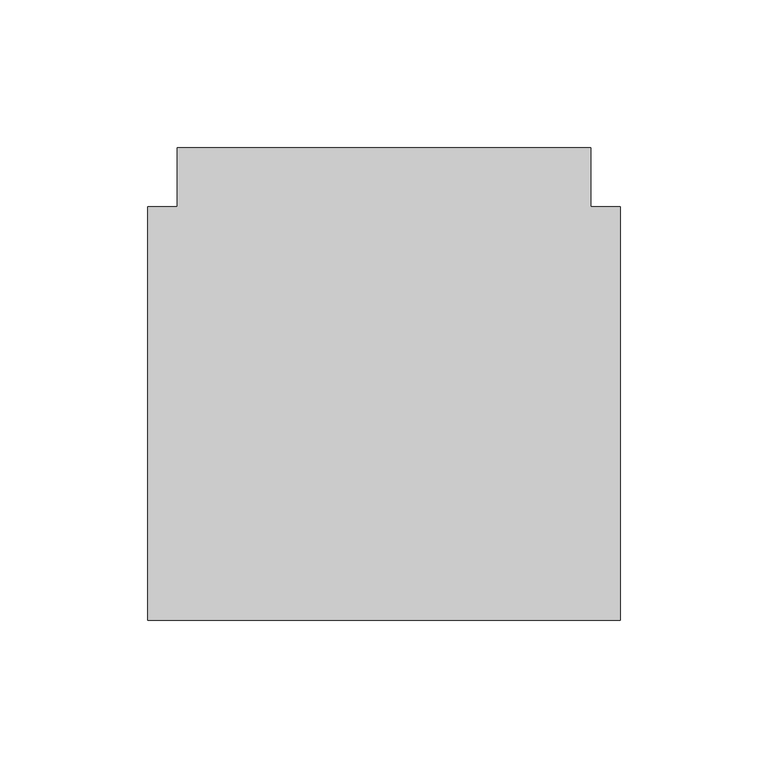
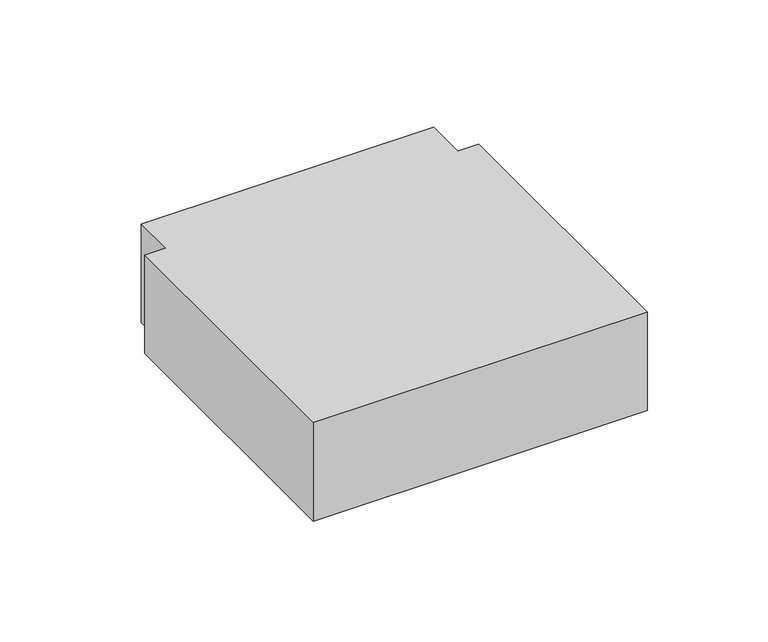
"""IFC4 building model written with IfcOpenShell, lengths in millimetres: cable carrier fitting geometry, КНС_Тройник_ILF_DKC : Белый."""

import ifcopenshell
import ifcopenshell.guid

model = None  # the IFC model being written
_history = None  # IfcOwnerHistory: only IFC2X3 demands one
_inside = {}  # id of a spatial element -> (the spatial element, [elements in it])
_under = {}  # id of a project, library or spatial element -> (it, [spatial elements below it])
_declared = {}  # id of a project -> (the project, [libraries it declares])
_typed = {}  # id of a type object -> (the type object, [elements of that type])
_made_of = {}  # id of a material, layer set ... -> (it, [elements and type objects made of it])


def new_model(schema):
    """Start an empty IFC model of exactly this schema.

    Asked for "IFC4X3", IfcOpenShell would pick the latest addendum, in which some entities
    have other attributes; the version numbers below select the first issue.
    IFC2X3 requires an IfcOwnerHistory on every rooted entity: one is made here for all.
    """
    global model, _history
    if schema == "IFC4X3":
        model = ifcopenshell.file(schema_version=(4, 3, 0, 0))
    else:
        model = ifcopenshell.file(schema=schema)
    _inside.clear()
    _under.clear()
    _declared.clear()
    _typed.clear()
    _made_of.clear()
    _history = None
    if model.schema == "IFC2X3":
        org = make("IfcOrganization", Name="unknown")
        user = make(
            "IfcPersonAndOrganization",
            ThePerson=make("IfcPerson", FamilyName="unknown"),
            TheOrganization=org,
        )
        app = make(
            "IfcApplication",
            ApplicationDeveloper=org,
            Version="unknown",
            ApplicationFullName="unknown",
            ApplicationIdentifier="unknown",
        )
        _history = make(
            "IfcOwnerHistory",
            OwningUser=user,
            OwningApplication=app,
            ChangeAction="ADDED",
            CreationDate=0,
        )
    return model


def make(cls, **values):
    """One entity of the class cls with the attributes given. An attribute that is None is left unset."""
    return model.create_entity(
        cls, **{name: value for name, value in values.items() if value is not None}
    )


def rooted(cls, **values):
    """An entity with a GlobalId (a new one), such as an element, a storey or a relation."""
    return make(cls, GlobalId=ifcopenshell.guid.new(), OwnerHistory=_history, **values)


def si_unit(unit_type, name, prefix=None):
    """IfcSIUnit, for example si_unit("LENGTHUNIT", "METRE", prefix="MILLI")."""
    return make("IfcSIUnit", UnitType=unit_type, Prefix=prefix, Name=name)


def assignment(units):
    """IfcUnitAssignment: the units of a project."""
    return None if units is None else make("IfcUnitAssignment", Units=units)


def point(xyz):
    """IfcCartesianPoint."""
    return None if xyz is None else make("IfcCartesianPoint", Coordinates=xyz)


def direction(xyz):
    """IfcDirection."""
    return None if xyz is None else make("IfcDirection", DirectionRatios=xyz)


def frame(location, z_axis=None, x_axis=None):
    """IfcAxis2Placement3D, a coordinate frame: its origin and axes. An axis left out is left unset."""
    return make(
        "IfcAxis2Placement3D",
        Location=point(location),
        Axis=direction(z_axis),
        RefDirection=direction(x_axis),
    )


def origin():
    """The frame at (0, 0, 0) with its axes left unset."""
    return frame((0.0, 0.0, 0.0))


def place(relative_to, where):
    """IfcLocalPlacement: puts the frame where relative to a parent placement (None: the world)."""
    return make(
        "IfcLocalPlacement", PlacementRelTo=relative_to, RelativePlacement=where
    )


def context(
    kind, dimensions, precision=None, world=None, true_north=None, identifier=None
):
    """IfcGeometricRepresentationContext, for example the 3D "Model" context."""
    return make(
        "IfcGeometricRepresentationContext",
        ContextIdentifier=identifier,
        ContextType=kind,
        CoordinateSpaceDimension=dimensions,
        Precision=precision,
        WorldCoordinateSystem=world,
        TrueNorth=true_north,
    )


def project(units=None, contexts=None):
    """IfcProject with its units and contexts."""
    return rooted(
        "IfcProject",
        Name="project",
        RepresentationContexts=contexts,
        UnitsInContext=assignment(units),
    )


def spatial(cls, under=None, at=None, **own):
    """A site, building, storey or space (cls), placed at a placement, below another one or the project."""
    s = rooted(cls, ObjectPlacement=at, **own)
    if under is not None:
        _under.setdefault(under.id(), (under, []))[1].append(s)
    return s


def polyline(points):
    """IfcPolyline through the points."""
    return make("IfcPolyline", Points=[point(p) for p in points])


def outline(outer, holes=None, kind="AREA"):
    """IfcArbitraryClosedProfileDef: a profile drawn as a closed curve; with holes, ...WithVoids."""
    if holes is None:
        return make("IfcArbitraryClosedProfileDef", ProfileType=kind, OuterCurve=outer)
    return make(
        "IfcArbitraryProfileDefWithVoids",
        ProfileType=kind,
        OuterCurve=outer,
        InnerCurves=holes,
    )


def extrude(swept, where, along, depth):
    """IfcExtrudedAreaSolid: the profile swept, set in the frame where, extruded along a direction by depth."""
    return make(
        "IfcExtrudedAreaSolid",
        SweptArea=swept,
        Position=where,
        ExtrudedDirection=direction(along),
        Depth=depth,
    )


def faces_of(points, faces, orient=None, outer=None):
    """IfcFace entities. A face is a list of loops; a loop is a list of indices into points, from 0.

    orient and outer hold one flag for each loop. By default every Orientation is true, the
    first loop of a face is its IfcFaceOuterBound and the others are IfcFaceBound.
    """
    made = []
    for i, loops in enumerate(faces):
        bounds = []
        for j, loop in enumerate(loops):
            is_outer = j == 0 if outer is None else outer[i][j]
            bounds.append(
                make(
                    "IfcFaceOuterBound" if is_outer else "IfcFaceBound",
                    Bound=make("IfcPolyLoop", Polygon=[points[k] for k in loop]),
                    Orientation=True if orient is None else orient[i][j],
                )
            )
        made.append(make("IfcFace", Bounds=bounds))
    return made


def faceted_brep(points, faces, orient=None, outer=None, voids=None):
    """IfcFacetedBrep: a solid bounded by flat faces; with voids (closed shells), ...WithVoids."""
    shared = [point(p) for p in points]
    hull = make("IfcClosedShell", CfsFaces=faces_of(shared, faces, orient, outer))
    if voids is None:
        return make("IfcFacetedBrep", Outer=hull)
    return make(
        "IfcFacetedBrepWithVoids",
        Outer=hull,
        Voids=[
            make(cls, CfsFaces=faces_of(shared, fs, o, b)) for cls, fs, o, b in voids
        ],
    )


def shape(context_of_items, identifier, shape_type, items):
    """IfcShapeRepresentation: the items that make up one representation, for example the "Body"."""
    return make(
        "IfcShapeRepresentation",
        ContextOfItems=context_of_items,
        RepresentationIdentifier=identifier,
        RepresentationType=shape_type,
        Items=items,
    )


def source(mapping_origin, context_of_items, identifier, shape_type, items):
    """IfcRepresentationMap: a shape defined once, which mapped items show again and again."""
    return make(
        "IfcRepresentationMap",
        MappingOrigin=mapping_origin,
        MappedRepresentation=shape(context_of_items, identifier, shape_type, items),
    )


def transform(
    local_origin,
    x_axis=None,
    y_axis=None,
    z_axis=None,
    scale=None,
    scale2=None,
    scale3=None,
    uniform=True,
):
    """IfcCartesianTransformationOperator3D, or its non-uniform kind. x_axis, y_axis, z_axis: its Axis1, 2, 3."""
    if uniform:
        return make(
            "IfcCartesianTransformationOperator3D",
            Axis1=direction(x_axis),
            Axis2=direction(y_axis),
            LocalOrigin=point(local_origin),
            Scale=scale,
            Axis3=direction(z_axis),
        )
    return make(
        "IfcCartesianTransformationOperator3DnonUniform",
        Axis1=direction(x_axis),
        Axis2=direction(y_axis),
        LocalOrigin=point(local_origin),
        Scale=scale,
        Axis3=direction(z_axis),
        Scale2=scale2,
        Scale3=scale3,
    )


def mapped(mapping_source, mapping_target):
    """IfcMappedItem: shows the shape of a source again, moved by a transform."""
    return make(
        "IfcMappedItem", MappingSource=mapping_source, MappingTarget=mapping_target
    )


def made_of(thing, what):
    """Note that an element or type object is made of a material, layer set ...; save() writes the relation."""
    if what is not None:
        _made_of.setdefault(what.id(), (what, []))[1].append(thing)
    return thing


def element(
    cls,
    number,
    at=None,
    inside=None,
    cuts=None,
    type_object=None,
    material=None,
    context=None,
    identifier="Body",
    shape_type=None,
    held_by="IfcProductDefinitionShape",
    body=None,
    shapes=None,
    **own,
):
    """One element of the class cls, such as IfcWall. Its Tag is "e" and its number.

    at: its placement. inside: the storey or other place that contains it. cuts: it is an
    opening in that element (IfcRelVoidsElement). A single representation is given by context,
    identifier, shape_type and body (its items); several are given by shapes. held_by: the class
    of the entity that holds the representations. save() writes the other relations.
    """
    e = rooted(cls, Tag="e%d" % number, ObjectPlacement=at, **own)
    if body is not None:
        shapes = [shape(context, identifier, shape_type, body)]
    if shapes is not None:
        e.Representation = make(held_by, Representations=shapes)
    if inside is not None:
        _inside.setdefault(inside.id(), (inside, []))[1].append(e)
    if cuts is not None:
        rooted(
            "IfcRelVoidsElement", RelatingBuildingElement=cuts, RelatedOpeningElement=e
        )
    if type_object is not None:
        _typed.setdefault(type_object.id(), (type_object, []))[1].append(e)
    return made_of(e, material)


def aggregate(whole, parts):
    """IfcRelAggregates: a whole, such as a stair, and the parts it consists of."""
    return rooted("IfcRelAggregates", RelatingObject=whole, RelatedObjects=parts)


def save(model, path):
    """Write the relations noted so far, then the file.

    IfcRelAggregates (storeys below a building ...), IfcRelContainedInSpatialStructure (elements
    in a storey), IfcRelDefinesByType, IfcRelAssociatesMaterial and IfcRelDeclares: one each for
    every whole, place, type object, material and project.
    """
    for whole, parts in _under.values():
        aggregate(whole, parts)
    for where, things in _inside.values():
        rooted(
            "IfcRelContainedInSpatialStructure",
            RelatedElements=things,
            RelatingStructure=where,
        )
    for kind, things in _typed.values():
        rooted("IfcRelDefinesByType", RelatedObjects=things, RelatingType=kind)
    for what, things in _made_of.values():
        rooted("IfcRelAssociatesMaterial", RelatedObjects=things, RelatingMaterial=what)
    for by, libraries in _declared.values():
        rooted("IfcRelDeclares", RelatingContext=by, RelatedDefinitions=libraries)
    model.write(path)


def cable_carrier_fitting_f882d0d2(model_context):
    return source(origin(), model_context, "Body", "SolidModel", [
        extrude(outline(polyline([(-70.0, 70.0), (-70.0, 90.0), (70.0, 90.0), (70.0, 70.0), (80.0, 70.0), (80.0, -70.0), (-80.0, -70.0), (-80.0, 70.0), (-70.0, 70.0)])), frame((0.0, 0.0, -25.0), z_axis=(0.0, 0.0, 1.0), x_axis=(1.0, 0.0, 0.0)), (0.0, 0.0, 1.0), 50.0),
        faceted_brep([(80.0, -67.46, -22.46), (80.0, 67.46, -22.46), (67.46, 67.46, -22.46), (67.46, 90.0, -22.46), (-67.46, 90.0, -22.46), (-67.46, 67.46, -22.46), (-80.0, 67.46, -22.46), (-80.0, -67.46, -22.46), (80.0, -70.0, -25.0), (-80.0, -70.0, -25.0), (-80.0, 70.0, -25.0), (-70.0, 70.0, -25.0), (-70.0, 90.0, -25.0), (70.0, 90.0, -25.0), (70.0, 70.0, -25.0), (80.0, 70.0, -25.0), (80.0, 70.0, 25.0), (80.0, 67.46, 25.0), (80.0, -67.46, 25.0), (80.0, -70.0, 25.0), (69.96, 70.0, 25.0), (70.0, 90.0, 25.0), (-69.96, 90.0, 25.0), (-67.46, 90.0, 25.0), (67.46, 90.0, 25.0), (-70.0, 70.0, 25.0), (-80.0, 70.0, 25.0), (-80.0, -70.0, 25.0), (-80.0, -67.46, 25.0), (-80.0, 67.46, 25.0), (67.46, 67.46, 25.0), (-67.46, 67.46, 25.0)], [[[0, 1, 2, 3, 4, 5, 6, 7]], [[8, 9, 10, 11, 12, 13, 14, 15]], [[8, 15, 16, 17, 1, 0, 18, 19]], [[16, 15, 14, 20]], [[20, 14, 13, 21]], [[21, 13, 12, 22, 23, 4, 3, 24]], [[22, 12, 11, 25]], [[25, 11, 10, 26]], [[26, 10, 9, 27, 28, 7, 6, 29]], [[27, 9, 8, 19]], [[20, 21, 24, 30, 17, 16]], [[25, 26, 29, 31, 23, 22]], [[27, 19, 18, 28]], [[31, 29, 6, 5]], [[23, 31, 5, 4]], [[30, 24, 3, 2]], [[17, 30, 2, 1]], [[28, 18, 0, 7]]]),
    ])


if __name__ == "__main__":
    model = new_model("IFC4")
    model_context = context("Model", 3, world=origin())
    ifc_project = project(units=[si_unit("LENGTHUNIT", "METRE", prefix="MILLI")], contexts=[model_context])
    site = spatial("IfcSite", under=ifc_project)
    building = spatial("IfcBuilding", under=site)
    placement = place(None, origin())
    cable_carrier_fitting_shape = cable_carrier_fitting_f882d0d2(model_context)
    element("IfcCableCarrierFitting", 1, ObjectType="КНС_Тройник_ILF_DKC : Белый", at=placement, inside=building, context=model_context, shape_type="MappedRepresentation", body=[
        mapped(cable_carrier_fitting_shape, transform((0.0, 0.0, 0.0), x_axis=(1.0, 0.0, 0.0), y_axis=(0.0, 1.0, 0.0), z_axis=(0.0, 0.0, 1.0))),
    ])
    save(model, "model.ifc")
